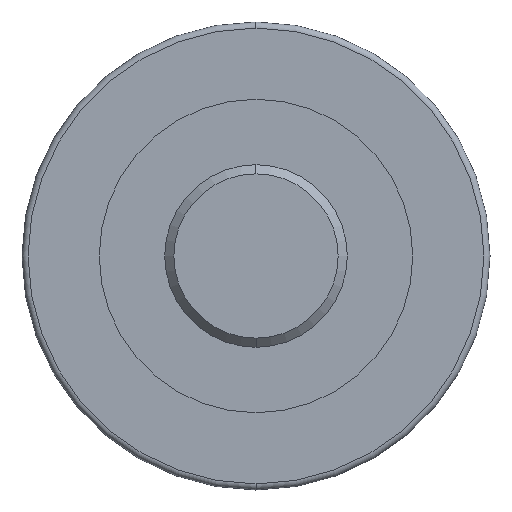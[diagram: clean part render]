
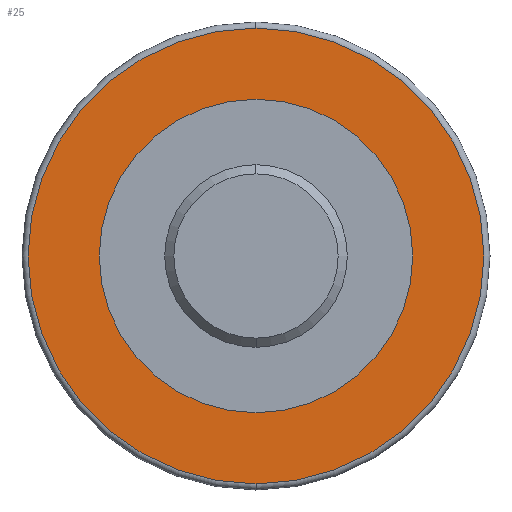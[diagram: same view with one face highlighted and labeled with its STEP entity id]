
A CAD part, left-side view. The second image highlights one B-rep face of the part: STEP entity #25.
In plain terms, the highlighted planar face has unit normal (-1, 0, 0).
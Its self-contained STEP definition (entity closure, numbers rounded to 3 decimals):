
#13 = DIRECTION ( 'NONE',  ( 0., 0., -1. ) ) ;
#16 = VERTEX_POINT ( 'NONE', #109 ) ;
#25 = ADVANCED_FACE ( 'NONE', ( #377, #142 ), #54, .F. ) ;
#54 = PLANE ( 'NONE',  #438 ) ;
#59 = ORIENTED_EDGE ( 'NONE', *, *, #264, .F. ) ;
#94 = EDGE_LOOP ( 'NONE', ( #128, #59 ) ) ;
#106 = DIRECTION ( 'NONE',  ( -1., 0., 0. ) ) ;
#109 = CARTESIAN_POINT ( 'NONE',  ( 0., 0., 51.5 ) ) ;
#111 = CARTESIAN_POINT ( 'NONE',  ( 0., 0., 0. ) ) ;
#128 = ORIENTED_EDGE ( 'NONE', *, *, #459, .F. ) ;
#142 = FACE_OUTER_BOUND ( 'NONE', #335, .T. ) ;
#149 = DIRECTION ( 'NONE',  ( 0., 0., -1. ) ) ;
#157 = VERTEX_POINT ( 'NONE', #408 ) ;
#168 = CIRCLE ( 'NONE', #472, 51.5 ) ;
#190 = CARTESIAN_POINT ( 'NONE',  ( 0., 0., 0. ) ) ;
#195 = DIRECTION ( 'NONE',  ( 0., 0., -1. ) ) ;
#209 = VERTEX_POINT ( 'NONE', #333 ) ;
#214 = DIRECTION ( 'NONE',  ( 1., 0., 0. ) ) ;
#234 = ORIENTED_EDGE ( 'NONE', *, *, #241, .T. ) ;
#240 = DIRECTION ( 'NONE',  ( -1., 0., 0. ) ) ;
#241 = EDGE_CURVE ( 'NONE', #209, #157, #319, .T. ) ;
#253 = CIRCLE ( 'NONE', #301, 74.9 ) ;
#264 = EDGE_CURVE ( 'NONE', #16, #434, #417, .T. ) ;
#267 = ORIENTED_EDGE ( 'NONE', *, *, #407, .T. ) ;
#284 = AXIS2_PLACEMENT_3D ( 'NONE', #454, #369, #423 ) ;
#301 = AXIS2_PLACEMENT_3D ( 'NONE', #457, #106, #381 ) ;
#307 = CARTESIAN_POINT ( 'NONE',  ( 0., 0., -51.5 ) ) ;
#319 = CIRCLE ( 'NONE', #284, 74.9 ) ;
#333 = CARTESIAN_POINT ( 'NONE',  ( 0., 0., 74.9 ) ) ;
#335 = EDGE_LOOP ( 'NONE', ( #267, #234 ) ) ;
#369 = DIRECTION ( 'NONE',  ( -1., 0., 0. ) ) ;
#377 = FACE_BOUND ( 'NONE', #94, .T. ) ;
#379 = DIRECTION ( 'NONE',  ( -1., 0., 0. ) ) ;
#380 = AXIS2_PLACEMENT_3D ( 'NONE', #190, #379, #195 ) ;
#381 = DIRECTION ( 'NONE',  ( 0., 0., -1. ) ) ;
#407 = EDGE_CURVE ( 'NONE', #157, #209, #253, .T. ) ;
#408 = CARTESIAN_POINT ( 'NONE',  ( 0., 0., -74.9 ) ) ;
#417 = CIRCLE ( 'NONE', #380, 51.5 ) ;
#423 = DIRECTION ( 'NONE',  ( 0., 0., -1. ) ) ;
#434 = VERTEX_POINT ( 'NONE', #307 ) ;
#438 = AXIS2_PLACEMENT_3D ( 'NONE', #111, #214, #149 ) ;
#454 = CARTESIAN_POINT ( 'NONE',  ( 0., 0., 0. ) ) ;
#457 = CARTESIAN_POINT ( 'NONE',  ( 0., 0., 0. ) ) ;
#459 = EDGE_CURVE ( 'NONE', #434, #16, #168, .T. ) ;
#472 = AXIS2_PLACEMENT_3D ( 'NONE', #496, #240, #13 ) ;
#496 = CARTESIAN_POINT ( 'NONE',  ( 0., 0., 0. ) ) ;
